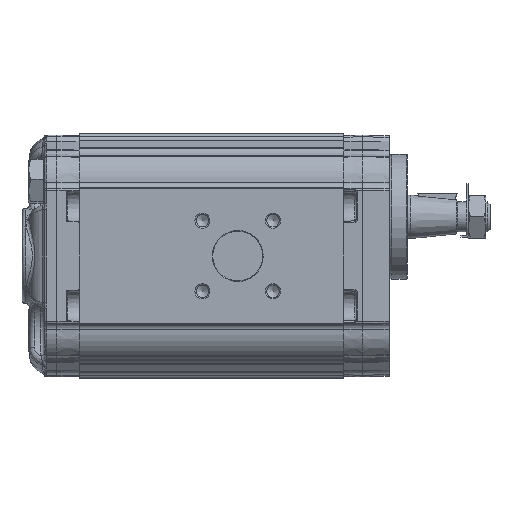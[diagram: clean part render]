
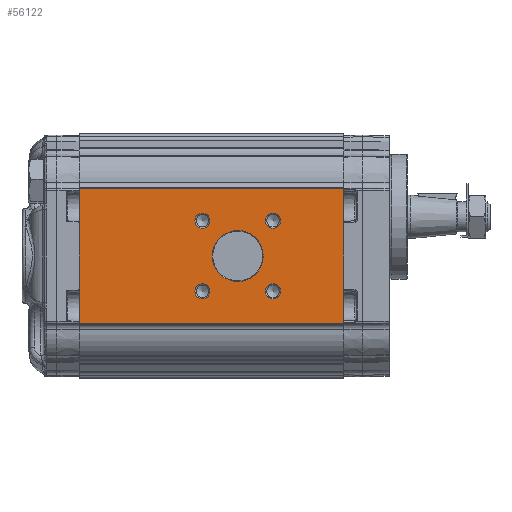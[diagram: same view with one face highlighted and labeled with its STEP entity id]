
A CAD part, left-side view. The second image highlights one B-rep face of the part: STEP entity #56122.
In plain terms, the highlighted planar face has unit normal (-1, 0, 0).
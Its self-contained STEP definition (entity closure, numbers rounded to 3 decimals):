
#3703=PLANE('',#59644);
#5021=CIRCLE('',#59645,10.2);
#5022=CIRCLE('',#59646,3.);
#5023=CIRCLE('',#59647,3.);
#5024=CIRCLE('',#59648,3.);
#5025=CIRCLE('',#59649,3.);
#11173=ORIENTED_EDGE('',*,*,#20204,.T.);
#11174=ORIENTED_EDGE('',*,*,#20205,.T.);
#11175=ORIENTED_EDGE('',*,*,#20206,.T.);
#11176=ORIENTED_EDGE('',*,*,#20207,.T.);
#11177=ORIENTED_EDGE('',*,*,#20208,.T.);
#11178=ORIENTED_EDGE('',*,*,#20209,.F.);
#11179=ORIENTED_EDGE('',*,*,#20210,.F.);
#11180=ORIENTED_EDGE('',*,*,#20211,.T.);
#11181=ORIENTED_EDGE('',*,*,#20212,.T.);
#20204=EDGE_CURVE('',#25046,#25046,#5021,.F.);
#20205=EDGE_CURVE('',#25047,#25047,#5022,.F.);
#20206=EDGE_CURVE('',#25048,#25048,#5023,.F.);
#20207=EDGE_CURVE('',#25049,#25049,#5024,.F.);
#20208=EDGE_CURVE('',#25050,#25050,#5025,.F.);
#20209=EDGE_CURVE('',#25051,#25052,#27939,.T.);
#20210=EDGE_CURVE('',#25053,#25051,#27940,.T.);
#20211=EDGE_CURVE('',#25053,#25054,#27941,.T.);
#20212=EDGE_CURVE('',#25054,#25052,#27942,.T.);
#25046=VERTEX_POINT('',#86806);
#25047=VERTEX_POINT('',#86808);
#25048=VERTEX_POINT('',#86810);
#25049=VERTEX_POINT('',#86812);
#25050=VERTEX_POINT('',#86814);
#25051=VERTEX_POINT('',#86816);
#25052=VERTEX_POINT('',#86817);
#25053=VERTEX_POINT('',#86819);
#25054=VERTEX_POINT('',#86821);
#27939=LINE('',#86815,#29974);
#27940=LINE('',#86818,#29975);
#27941=LINE('',#86820,#29976);
#27942=LINE('',#86822,#29977);
#29974=VECTOR('',#66583,1000.);
#29975=VECTOR('',#66584,1000.);
#29976=VECTOR('',#66585,1000.);
#29977=VECTOR('',#66586,1000.);
#32371=EDGE_LOOP('',(#11173));
#32372=EDGE_LOOP('',(#11174));
#32373=EDGE_LOOP('',(#11175));
#32374=EDGE_LOOP('',(#11176));
#32375=EDGE_LOOP('',(#11177));
#32376=EDGE_LOOP('',(#11178,#11179,#11180,#11181));
#35152=FACE_BOUND('',#32371,.T.);
#35153=FACE_BOUND('',#32372,.T.);
#35154=FACE_BOUND('',#32373,.T.);
#35155=FACE_BOUND('',#32374,.T.);
#35156=FACE_BOUND('',#32375,.T.);
#35157=FACE_BOUND('',#32376,.T.);
#56122=ADVANCED_FACE('',(#35152,#35153,#35154,#35155,#35156,#35157),#3703,
 .T.);
#59644=AXIS2_PLACEMENT_3D('',#86804,#66571,#66572);
#59645=AXIS2_PLACEMENT_3D('',#86805,#66573,#66574);
#59646=AXIS2_PLACEMENT_3D('',#86807,#66575,#66576);
#59647=AXIS2_PLACEMENT_3D('',#86809,#66577,#66578);
#59648=AXIS2_PLACEMENT_3D('',#86811,#66579,#66580);
#59649=AXIS2_PLACEMENT_3D('',#86813,#66581,#66582);
#66571=DIRECTION('',(-1.,0.,0.));
#66572=DIRECTION('',(0.,0.,1.));
#66573=DIRECTION('',(-1.,0.,0.));
#66574=DIRECTION('',(0.,0.,1.));
#66575=DIRECTION('',(-1.,0.,0.));
#66576=DIRECTION('',(0.,0.,1.));
#66577=DIRECTION('',(-1.,0.,0.));
#66578=DIRECTION('',(0.,0.,1.));
#66579=DIRECTION('',(-1.,0.,0.));
#66580=DIRECTION('',(0.,0.,1.));
#66581=DIRECTION('',(-1.,0.,0.));
#66582=DIRECTION('',(0.,0.,1.));
#66583=DIRECTION('',(0.,0.,-1.));
#66584=DIRECTION('',(0.,-1.,0.));
#66585=DIRECTION('',(0.,0.,-1.));
#66586=DIRECTION('',(0.,-1.,0.));
#86804=CARTESIAN_POINT('',(-43.,106.,27.048));
#86805=CARTESIAN_POINT('',(-43.,42.5,0.));
#86806=CARTESIAN_POINT('',(-43.,42.5,10.2));
#86807=CARTESIAN_POINT('',(-43.,56.642,-14.142));
#86808=CARTESIAN_POINT('',(-43.,56.642,-11.142));
#86809=CARTESIAN_POINT('',(-43.,56.642,14.142));
#86810=CARTESIAN_POINT('',(-43.,56.642,17.142));
#86811=CARTESIAN_POINT('',(-43.,28.358,14.142));
#86812=CARTESIAN_POINT('',(-43.,28.358,17.142));
#86813=CARTESIAN_POINT('',(-43.,28.358,-14.142));
#86814=CARTESIAN_POINT('',(-43.,28.358,-11.142));
#86815=CARTESIAN_POINT('',(-43.,0.,27.048));
#86816=CARTESIAN_POINT('',(-43.,0.,27.048));
#86817=CARTESIAN_POINT('',(-43.,0.,-27.048));
#86818=CARTESIAN_POINT('',(-43.,106.,27.048));
#86819=CARTESIAN_POINT('',(-43.,106.,27.048));
#86820=CARTESIAN_POINT('',(-43.,106.,27.048));
#86821=CARTESIAN_POINT('',(-43.,106.,-27.048));
#86822=CARTESIAN_POINT('',(-43.,106.,-27.048));
